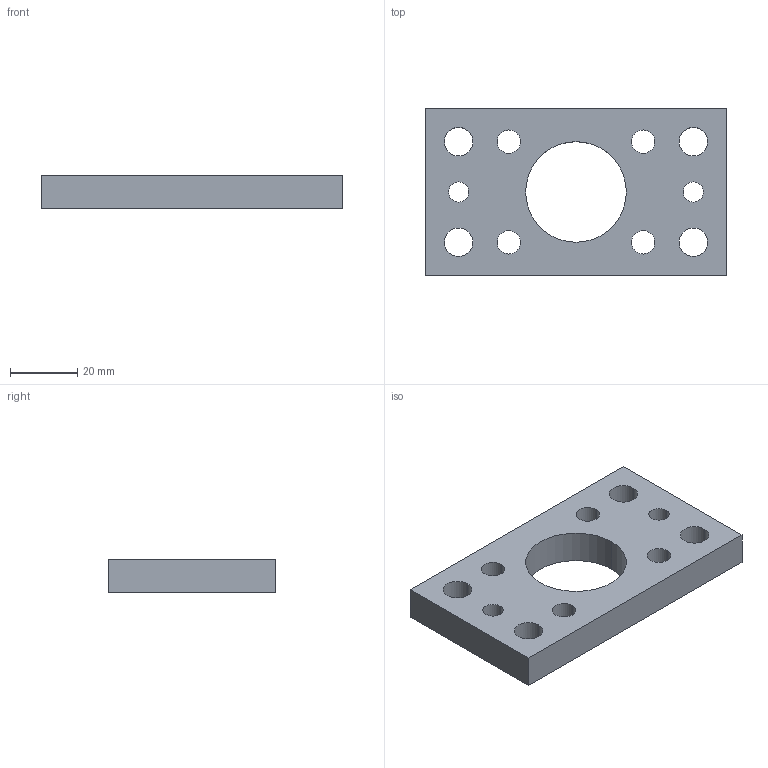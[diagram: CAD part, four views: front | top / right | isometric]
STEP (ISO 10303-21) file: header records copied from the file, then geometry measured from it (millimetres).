
FILE_DESCRIPTION (( 'STEP AP203' ), '1' );
FILE_NAME ('3D3.PS53.STEP', '2015-03-11T09:07:42', ( 'usuario' ), ( 'Hewlett-Packard Company' ), 'SwSTEP 2.0', 'SolidWorks 2013', '' );
FILE_SCHEMA (( 'CONFIG_CONTROL_DESIGN' ));
Length unit declared in the file: millimetre
Products named in the file (1): 3D3.PS53
Bounding box: 90 x 50 x 10 mm (x, y, z)
Volume: 33556.7 mm3; surface area: 12778.6 mm2
Topology: 1 solids, 1 shells, 28 faces, 78 edges, 52 vertices
Faces by surface type: cylinder 22, plane 6
Entity records: 1047 total; most frequent: DIRECTION 180, CARTESIAN_POINT 159, ORIENTED_EDGE 156, EDGE_CURVE 78, AXIS2_PLACEMENT_3D 73, VERTEX_POINT 52, EDGE_LOOP 50, CIRCLE 44
